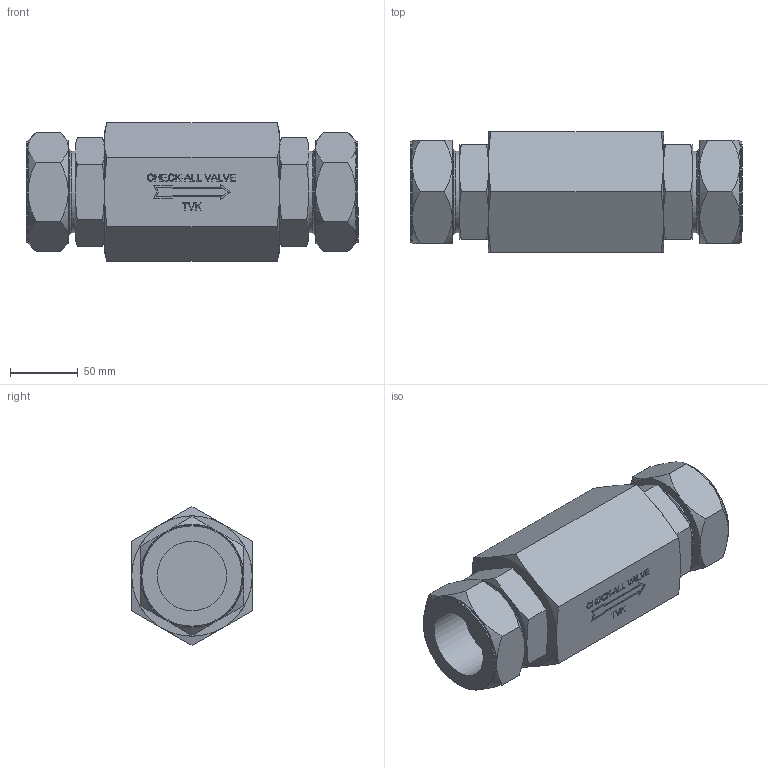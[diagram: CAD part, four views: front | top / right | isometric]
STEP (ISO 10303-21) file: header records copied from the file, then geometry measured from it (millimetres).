
FILE_DESCRIPTION( ( 'Unknown' ), '1' );
FILE_NAME( 'Y:/ENGR/3D Solid Edge Models/TV/stp/TVK.stp', 'Unknown', ( 'Unknown' ), ( 'Unknown' ), 'PSStep 16.0.42', 'Unknown', ' ' );
FILE_SCHEMA( ( 'AUTOMOTIVE_DESIGN { 1 0 10303 214 1 1 1 1 }' ) );
Length unit declared in the file: millimetre
Products named in the file (1): 5034c (Nut)
Bounding box: 245.31 x 88.9 x 102.65 mm (x, y, z)
Volume: 1273140.5 mm3; surface area: 100417.1 mm2
Topology: 1 solids, 1 shells, 410 faces, 1044 edges, 618 vertices
Faces by surface type: extrusion 141, plane 87, cone 62, bspline 49, torus 40, cylinder 31
Full cylindrical faces by diameter (mm): 51.359 x2, 60.477 x2, 63.5 x2, 74.676 x2
Entity records: 19278 total; most frequent: CARTESIAN_POINT 7358, ORIENTED_EDGE 1954, DIRECTION 1347, EDGE_CURVE 977, VERTEX_POINT 614, B_SPLINE_CURVE_WITH_KNOTS 551, VECTOR 511, EDGE_LOOP 455
